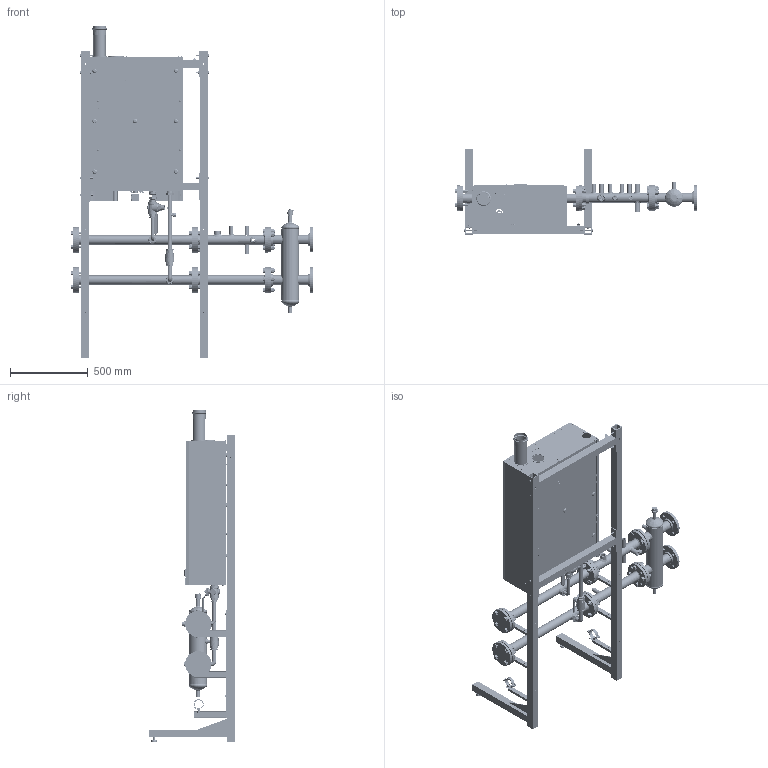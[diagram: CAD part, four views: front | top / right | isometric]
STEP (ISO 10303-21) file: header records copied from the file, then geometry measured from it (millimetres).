
FILE_DESCRIPTION( ( 'Unknown' ), '1' );
FILE_NAME( 'C:/Users/Gaboardi Damiano/Desktop/ALKON50-70 iges+KIT/BATTERIA_ALKON50-70+KIT.stp', 'Unknown', ( 'Unknown' ), ( 'Unknown' ), 'PSStep 17.0.49', 'Unknown', ' ' );
FILE_SCHEMA( ( 'AUTOMOTIVE_DESIGN { 1 0 10303 214 1 1 1 1 }' ) );
Length unit declared in the file: millimetre
Products named in the file (247): 00262587-6; 00262587-7; 00262587-8; 00212123; MOL0600C; 00282237-oa85; girelloG3_4; 00262587-oa110; 00262587-1; 00262587-2; 00262587-3; 00262587-4; 00262587-5; 00282780-oa93; 00251765; 00213190; 33222-oa108; TUB0041-oa107; 85010167-oa96; 00261987; 00251105; 00261005; PRN0120C; 00213191; 00214091; 00282708-oa91; 00282708-1; 33222-oa104; TUB0041-oa103; 85010167-oa84; 30342; MNT0049; 40869; 40871; 40870; 40872; Saldatura d'angolo 1-oa29; Saldatura d'angolo 2-oa30; Saldatura d'angolo 3-oa31; Saldatura d'angolo 4-oa32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
Assembly tree (462 placements, depth 6):
  Saldatura d'angolo 1-oa29
  Saldatura d'angolo 2-oa30
  Saldatura d'angolo 3-oa31
  Saldatura d'angolo 4-oa32
  Saldatura d'angolo 5-oa33
Bounding box: 1556.5 x 550 x 2138.86 mm (x, y, z)
Volume: 20149735.2 mm3; surface area: 11806315.5 mm2
Topology: 452 solids, 452 shells, 6696 faces, 17156 edges, 11446 vertices
Faces by surface type: plane 4306, cylinder 1795, cone 258, torus 130, sphere 106, bspline 77, revolution 24
Full cylindrical faces by diameter (mm): 1.2 x4, 2.1 x2, 3 x7, 3.2 x15, 3.242 x4, 3.5 x40, 3.8 x2, 4 x4, 4.134 x1, 4.3 x4, 4.5 x4, 4.8 x13, 5 x24, 5.2 x1, 5.5 x12, 5.9 x8, 6 x43, 6.35 x4, 6.5 x3, 7 x6, 8 x45, 8.4 x22, 9 x76, 9.5 x13, 10 x115, 11 x2, 11.6 x2, 12 x2, 12.4 x1, 13 x1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
Entity records: 172246 total; most frequent: CARTESIAN_POINT 43127, DIRECTION 19690, ORIENTED_EDGE 18418, EDGE_CURVE 8618, AXIS2_PLACEMENT_3D 6989, VERTEX_POINT 6186, LINE 5708, VECTOR 5708
